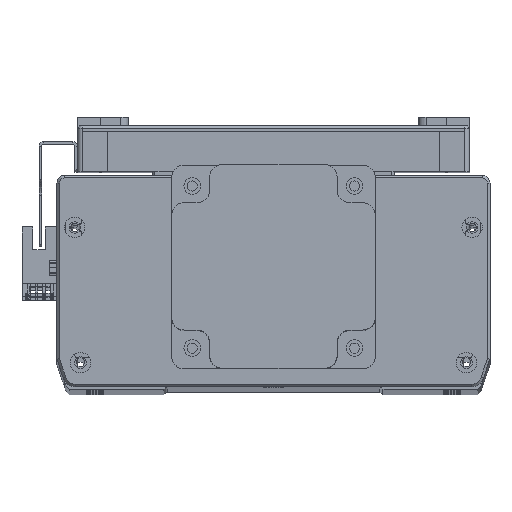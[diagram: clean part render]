
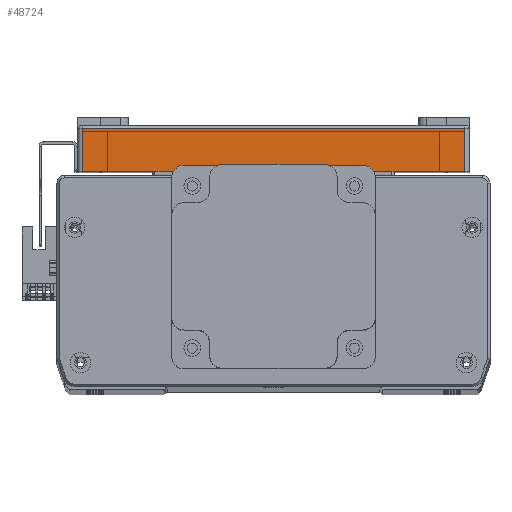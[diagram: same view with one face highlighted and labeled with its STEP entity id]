
A CAD part, top view. The second image highlights one B-rep face of the part: STEP entity #48724.
In plain terms, the highlighted planar face has unit normal (0, 0, 1) as drawn and (-1, 0, 0) by its records, which use the part's own axes.
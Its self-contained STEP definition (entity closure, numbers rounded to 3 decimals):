
#5900 = AXIS2_PLACEMENT_3D ( 'NONE', #38101, #38060, #38044 ) ;
#7972 = ORIENTED_EDGE ( 'NONE', *, *, #10976, .T. ) ;
#7996 = ORIENTED_EDGE ( 'NONE', *, *, #10938, .T. ) ;
#8003 = ORIENTED_EDGE ( 'NONE', *, *, #10880, .T. ) ;
#8079 = ORIENTED_EDGE ( 'NONE', *, *, #11058, .T. ) ;
#10880 = EDGE_CURVE ( 'NONE', #64060, #64090, #38963, .T. ) ;
#10938 = EDGE_CURVE ( 'NONE', #64090, #64092, #38950, .T. ) ;
#10976 = EDGE_CURVE ( 'NONE', #64153, #64060, #39010, .T. ) ;
#11058 = EDGE_CURVE ( 'NONE', #64092, #64153, #39077, .T. ) ;
#16405 = FACE_OUTER_BOUND ( 'NONE', #28944, .T. ) ;
#18961 = CARTESIAN_POINT ( 'NONE',  ( -115., 17., -75. ) ) ;
#19022 = CARTESIAN_POINT ( 'NONE',  ( -115., 17., 75. ) ) ;
#19024 = CARTESIAN_POINT ( 'NONE',  ( -115., 0., -75. ) ) ;
#19068 = CARTESIAN_POINT ( 'NONE',  ( -115., 0., 75. ) ) ;
#28944 = EDGE_LOOP ( 'NONE', ( #8079, #7972, #8003, #7996 ) ) ;
#38044 = DIRECTION ( 'NONE',  ( 0., 0., -1. ) ) ;
#38060 = DIRECTION ( 'NONE',  ( 1., 0., 0. ) ) ;
#38067 = CARTESIAN_POINT ( 'NONE',  ( -115., 18., 75. ) ) ;
#38094 = DIRECTION ( 'NONE',  ( 0., 1., 0. ) ) ;
#38097 = PLANE ( 'NONE',  #5900 ) ;
#38101 = CARTESIAN_POINT ( 'NONE',  ( -115., 18., -77. ) ) ;
#38950 = LINE ( 'NONE', #40822, #38951 ) ;
#38951 = VECTOR ( 'NONE', #40841, 1000. ) ;
#38962 = VECTOR ( 'NONE', #40766, 1000. ) ;
#38963 = LINE ( 'NONE', #40757, #38962 ) ;
#39010 = LINE ( 'NONE', #40905, #39013 ) ;
#39013 = VECTOR ( 'NONE', #40907, 1000. ) ;
#39057 = VECTOR ( 'NONE', #38094, 1000. ) ;
#39077 = LINE ( 'NONE', #38067, #39057 ) ;
#40757 = CARTESIAN_POINT ( 'NONE',  ( -115., 18., -75. ) ) ;
#40766 = DIRECTION ( 'NONE',  ( 0., -1., 0. ) ) ;
#40822 = CARTESIAN_POINT ( 'NONE',  ( -115., 0., -77. ) ) ;
#40841 = DIRECTION ( 'NONE',  ( 0., 0., 1. ) ) ;
#40905 = CARTESIAN_POINT ( 'NONE',  ( -115., 17., -75. ) ) ;
#40907 = DIRECTION ( 'NONE',  ( 0., 0., -1. ) ) ;
#48724 = ADVANCED_FACE ( 'NONE', ( #16405 ), #38097, .F. ) ;
#64060 = VERTEX_POINT ( 'NONE', #18961 ) ;
#64090 = VERTEX_POINT ( 'NONE', #19024 ) ;
#64092 = VERTEX_POINT ( 'NONE', #19068 ) ;
#64153 = VERTEX_POINT ( 'NONE', #19022 ) ;
